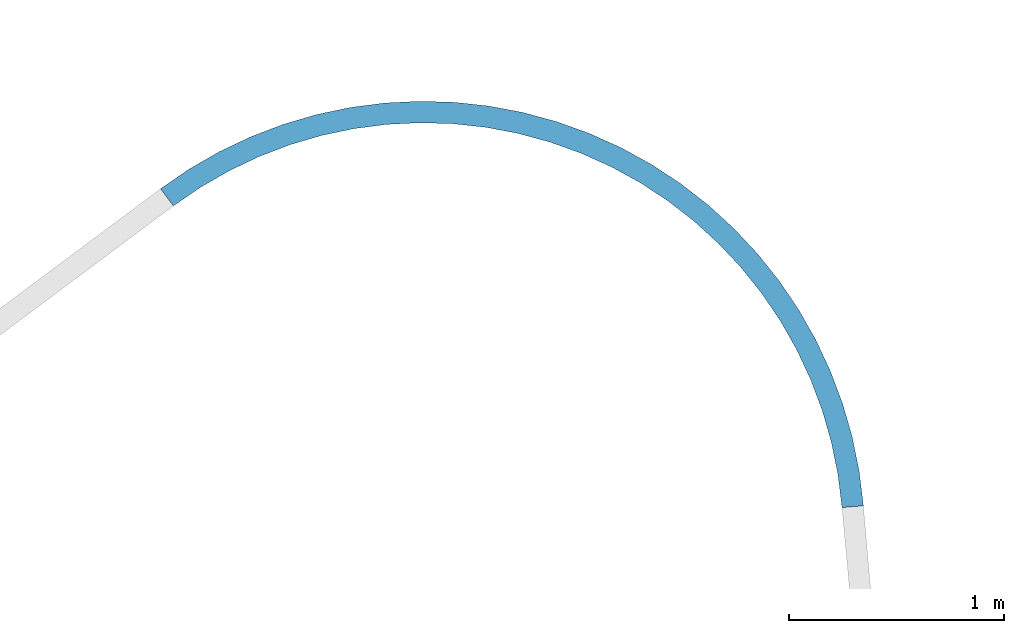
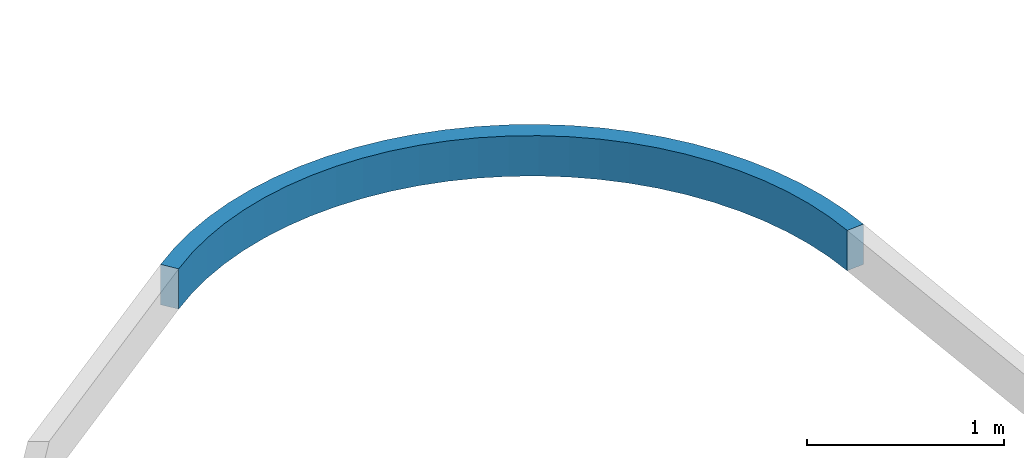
# One storey, part 18 of 24: 1 beam.
"""IFC2X3 building model written with IfcOpenShell, lengths in millimetres."""

from ifc_helpers import new_model, entity, si_unit, converted_unit, derived_unit, direction, frame, origin, place, context, subcontext, project, spatial, faceted_brep, material, type_object, element, save


model = new_model("IFC2X3")

# Units and contexts
model_context = context("Model", 3, precision=0.01, world=origin(), true_north=direction((6.123031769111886e-17, 1.0)))
body_context = subcontext(model_context, "Body", "Model", "MODEL_VIEW")
ifc_project = project(units=[si_unit("LENGTHUNIT", "METRE", prefix="MILLI"), si_unit("AREAUNIT", "SQUARE_METRE"), si_unit("VOLUMEUNIT", "CUBIC_METRE"), converted_unit("PLANEANGLEUNIT", "DEGREE", entity("IfcRatioMeasure", 0.017453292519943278), si_unit("PLANEANGLEUNIT", "RADIAN"), dimensions=[0, 0, 0, 0, 0, 0, 0]), si_unit("MASSUNIT", "GRAM", prefix="KILO"), derived_unit("MASSDENSITYUNIT", [(si_unit("MASSUNIT", "GRAM", prefix="KILO"), 1), (si_unit("LENGTHUNIT", "METRE"), -3)]), derived_unit("MOMENTOFINERTIAUNIT", [(si_unit("LENGTHUNIT", "METRE"), 4)]), si_unit("TIMEUNIT", "SECOND"), si_unit("FREQUENCYUNIT", "HERTZ"), si_unit("THERMODYNAMICTEMPERATUREUNIT", "DEGREE_CELSIUS"), derived_unit("THERMALTRANSMITTANCEUNIT", [(si_unit("MASSUNIT", "GRAM", prefix="KILO"), 1), (si_unit("THERMODYNAMICTEMPERATUREUNIT", "KELVIN"), -1), (si_unit("TIMEUNIT", "SECOND"), -3)]), derived_unit("THERMALCONDUCTANCEUNIT", [(si_unit("MASSUNIT", "GRAM", prefix="KILO"), 1), (si_unit("LENGTHUNIT", "METRE"), 1), (si_unit("THERMODYNAMICTEMPERATUREUNIT", "KELVIN"), -1), (si_unit("TIMEUNIT", "SECOND"), -3)]), derived_unit("VOLUMETRICFLOWRATEUNIT", [(si_unit("LENGTHUNIT", "METRE"), 3), (si_unit("TIMEUNIT", "SECOND"), -1)]), derived_unit("MASSFLOWRATEUNIT", [(si_unit("MASSUNIT", "GRAM", prefix="KILO"), 1), (si_unit("TIMEUNIT", "SECOND"), -1)]), derived_unit("ROTATIONALFREQUENCYUNIT", [(si_unit("TIMEUNIT", "SECOND"), -1)]), si_unit("ELECTRICCURRENTUNIT", "AMPERE"), si_unit("ELECTRICVOLTAGEUNIT", "VOLT"), si_unit("POWERUNIT", "WATT"), converted_unit("FORCEUNIT", "KIP", entity("IfcRatioMeasure", 2.088543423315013e-05), si_unit("FORCEUNIT", "NEWTON"), dimensions=[1, 1, -2, 0, 0, 0, 0]), si_unit("ILLUMINANCEUNIT", "LUX"), si_unit("LUMINOUSFLUXUNIT", "LUMEN"), si_unit("LUMINOUSINTENSITYUNIT", "CANDELA"), derived_unit("USERDEFINED", [(si_unit("MASSUNIT", "GRAM", prefix="KILO"), -1), (si_unit("LENGTHUNIT", "METRE"), -2), (si_unit("TIMEUNIT", "SECOND"), 3), (si_unit("LUMINOUSFLUXUNIT", "LUMEN"), 1)]), derived_unit("USERDEFINED", [(si_unit("MASSUNIT", "GRAM", prefix="KILO"), 1), (si_unit("LENGTHUNIT", "METRE"), 3), (si_unit("TIMEUNIT", "SECOND"), -3), (si_unit("ELECTRICCURRENTUNIT", "AMPERE"), -2)]), derived_unit("USERDEFINED", [(si_unit("LENGTHUNIT", "METRE"), 2), (si_unit("TIMEUNIT", "SECOND"), -2)]), derived_unit("SOUNDPOWERUNIT", [(si_unit("MASSUNIT", "GRAM", prefix="KILO"), 1), (si_unit("LENGTHUNIT", "METRE"), 2), (si_unit("TIMEUNIT", "SECOND"), -3)]), derived_unit("SOUNDPRESSUREUNIT", [(si_unit("MASSUNIT", "GRAM", prefix="KILO"), 1), (si_unit("LENGTHUNIT", "METRE"), -1), (si_unit("TIMEUNIT", "SECOND"), -2)]), derived_unit("LINEARVELOCITYUNIT", [(si_unit("LENGTHUNIT", "METRE"), 1), (si_unit("TIMEUNIT", "SECOND"), -1)]), si_unit("PRESSUREUNIT", "PASCAL"), derived_unit("USERDEFINED", [(si_unit("LENGTHUNIT", "METRE"), -2), (si_unit("MASSUNIT", "GRAM", prefix="KILO"), 1), (si_unit("TIMEUNIT", "SECOND"), -2)]), derived_unit("LINEARFORCEUNIT", [(si_unit("MASSUNIT", "GRAM", prefix="KILO"), 1), (si_unit("LENGTHUNIT", "METRE"), 1), (si_unit("TIMEUNIT", "SECOND"), -2), (si_unit("LENGTHUNIT", "METRE"), -1)]), derived_unit("PLANARFORCEUNIT", [(si_unit("MASSUNIT", "GRAM", prefix="KILO"), 1), (si_unit("LENGTHUNIT", "METRE"), 1), (si_unit("TIMEUNIT", "SECOND"), -2), (si_unit("LENGTHUNIT", "METRE"), -2)]), derived_unit("SPECIFICHEATCAPACITYUNIT", [(si_unit("LENGTHUNIT", "METRE"), 2), (si_unit("TIMEUNIT", "SECOND"), -2), (si_unit("THERMODYNAMICTEMPERATUREUNIT", "KELVIN"), -1)]), derived_unit("VAPORPERMEABILITYUNIT", [(si_unit("TIMEUNIT", "SECOND"), 1), (si_unit("LENGTHUNIT", "METRE"), -1)]), derived_unit("DYNAMICVISCOSITYUNIT", [(si_unit("MASSUNIT", "GRAM", prefix="KILO"), 1), (si_unit("LENGTHUNIT", "METRE"), -1), (si_unit("TIMEUNIT", "SECOND"), -1)]), derived_unit("THERMALEXPANSIONCOEFFICIENTUNIT", [(si_unit("THERMODYNAMICTEMPERATUREUNIT", "KELVIN"), -1)])], contexts=[model_context])

# Site, building, storey
site_placement = place(None, frame((0.0, 0.0, 0.0), z_axis=(0.0, 0.0, 1.0), x_axis=(0.8191520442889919, 0.5735764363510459, 0.0)))
site = spatial("IfcSite", under=ifc_project, at=site_placement, Name="Default", CompositionType="ELEMENT")
building_placement = place(site_placement, origin())
building = spatial("IfcBuilding", under=site, at=building_placement, CompositionType="ELEMENT")
storey_placement = place(building_placement, frame((0.0, 0.0, -1150.0)))
storey = spatial("IfcBuildingStorey", under=building, at=storey_placement, Name="6.EG KH -1.15", CompositionType="ELEMENT", Elevation=-1150.0000000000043)

# Beam
ifc_material = material(Name="Paveta_bordur")
beam_type = type_object("IfcBeamType", Name="Beam-141", PredefinedType="NOTDEFINED")
beam_placement = place(storey_placement, frame((-149017.48683213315, 78031.4994296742, 920.0)))
element("IfcBeam", 1, at=beam_placement, inside=storey, type_object=beam_type, material=ifc_material, Name="Beam-141 256654:Beam-141 256654", ObjectType="Beam-141 256654:Beam-141 256654", context=body_context, shape_type="Brep", body=[
    faceted_brep([(1746.785892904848, 52.02008533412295, 250.0), (1746.785892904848, 52.02008533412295, 0.0), (1833.1417741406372, 1.5952722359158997, 0.0), (1833.1417741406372, 1.5952722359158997, 250.0), (1.5952722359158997, 3084.3886932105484, 0.0), (4.5831228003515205, 2984.43333943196, 0.0), (4.5831228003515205, 2984.43333943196, 250.0), (1.5952722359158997, 3084.3886932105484, 250.0), (163.20677200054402, 3082.8458224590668, 0.0), (324.19448024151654, 3068.576446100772, 0.0), (483.5577771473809, 3041.669255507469, 0.0), (640.3061394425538, 3002.291492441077, 0.0), (793.4652969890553, 2950.687909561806, 0.0), (942.0832883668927, 2887.1792491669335, 0.0), (1085.236377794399, 2812.1602496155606, 0.0), (1222.034796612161, 2726.0971918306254, 0.0), (1351.6282736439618, 2629.5250011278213, 0.0), (1473.2113200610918, 2523.0439223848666, 0.0), (1586.0282359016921, 2407.3157892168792, 0.0), (1689.377807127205, 2283.0599103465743, 0.0), (1782.6176640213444, 2151.048598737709, 0.0), (1865.1682738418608, 2012.1023712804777, 0.0), (1936.5165429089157, 1867.0848488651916, 0.0), (1996.2190057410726, 1716.8973885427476, 0.0), (2043.904581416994, 1562.4734811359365, 0.0), (2079.2768800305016, 1404.7729491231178, 0.0), (2102.1160449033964, 1244.7759808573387, 0.0), (2112.2801191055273, 1083.477038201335, 0.0), (2109.7059277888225, 921.8786754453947, 0.0), (2094.4094708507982, 760.9853079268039, 0.0), (2066.485823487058, 601.7969690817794, 0.0), (2026.1085452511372, 445.30309473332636, 0.0), (1973.5286012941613, 292.4763732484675, 0.0), (1909.072802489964, 144.26669978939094, 0.0), (1819.0129686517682, 187.7319310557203, 0.0), (1880.3245821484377, 328.7118643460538, 0.0), (1930.3396507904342, 474.08362380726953, 0.0), (1968.7473056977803, 622.9436506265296, 0.0), (1995.3088239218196, 774.3667046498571, 0.0), (2009.8591122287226, 927.4116152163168, 0.0), (2012.307733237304, 1081.1271310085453, 0.0), (2002.63946753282, 1234.5578325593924, 0.0), (1980.9144082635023, 1386.7500706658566, 0.0), (1947.267587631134, 1536.7578938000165, 0.0), (1901.908137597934, 1683.648927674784, 0.0), (1845.1179900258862, 1826.5101704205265, 0.0), (1777.250124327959, 1964.453667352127, 0.0), (1698.726373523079, 2096.622030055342, 0.0), (1610.0348023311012, 2222.193765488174, 0.0), (1511.7266736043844, 2340.388381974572, 0.0), (1404.4130219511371, 2450.4712403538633, 0.0), (1288.7608558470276, 2551.758120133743, 0.0), (1165.4890118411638, 2643.619472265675, 0.0), (1035.363686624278, 2725.484332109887, 0.0), (899.1936747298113, 2796.843868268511, 0.0), (757.8253414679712, 2857.254545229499, 0.0), (612.1373623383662, 2906.3408801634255, 0.0), (463.0352616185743, 2943.7977767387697, 0.0), (311.4457840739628, 2969.392421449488, 0.0), (158.31113477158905, 2982.9657306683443, 0.0), (1909.072802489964, 144.26669978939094, 250.0), (1973.5286012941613, 292.4763732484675, 250.0), (2066.485823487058, 601.7969690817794, 250.0), (2026.1085452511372, 445.30309473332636, 250.0), (2109.7059277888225, 921.8786754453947, 250.0), (2094.4094708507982, 760.9853079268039, 250.0), (2043.904581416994, 1562.4734811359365, 250.0), (1996.2190057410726, 1716.8973885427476, 250.0), (1936.5165429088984, 1867.0848488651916, 250.0), (2112.2801191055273, 1083.477038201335, 250.0), (2102.1160449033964, 1244.7759808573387, 250.0), (2079.2768800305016, 1404.7729491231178, 250.0), (1865.1682738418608, 2012.1023712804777, 250.0), (1782.6176640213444, 2151.048598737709, 250.0), (1351.6282736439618, 2629.5250011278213, 250.0), (1473.2113200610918, 2523.0439223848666, 250.0), (1222.034796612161, 2726.0971918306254, 250.0), (1689.377807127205, 2283.0599103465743, 250.0), (1586.0282359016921, 2407.3157892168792, 250.0), (1085.236377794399, 2812.1602496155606, 250.0), (483.5577771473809, 3041.669255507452, 250.0), (324.19448024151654, 3068.576446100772, 250.0), (163.20677200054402, 3082.8458224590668, 250.0), (942.0832883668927, 2887.1792491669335, 250.0), (793.4652969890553, 2950.687909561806, 250.0), (640.3061394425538, 3002.291492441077, 250.0), (158.31113477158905, 2982.9657306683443, 250.0), (311.4457840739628, 2969.392421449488, 250.0), (463.0352616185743, 2943.7977767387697, 250.0), (612.1373623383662, 2906.3408801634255, 250.0), (757.8253414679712, 2857.254545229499, 250.0), (899.1936747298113, 2796.843868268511, 250.0), (1035.363686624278, 2725.484332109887, 250.0), (1165.4890118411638, 2643.619472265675, 250.0), (1288.7608558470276, 2551.758120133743, 250.0), (1404.4130219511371, 2450.4712403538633, 250.0), (1511.7266736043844, 2340.388381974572, 250.0), (1610.0348023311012, 2222.193765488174, 250.0), (1698.726373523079, 2096.622030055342, 250.0), (1777.250124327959, 1964.453667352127, 250.0), (1845.1179900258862, 1826.5101704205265, 250.0), (1901.908137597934, 1683.648927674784, 250.0), (1947.267587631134, 1536.7578938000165, 250.0), (1980.9144082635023, 1386.7500706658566, 250.0), (2002.63946753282, 1234.5578325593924, 250.0), (2012.307733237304, 1081.1271310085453, 250.0), (2009.8591122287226, 927.4116152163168, 250.0), (1995.3088239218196, 774.3667046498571, 250.0), (1968.7473056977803, 622.9436506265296, 250.0), (1930.3396507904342, 474.08362380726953, 250.0), (1880.3245821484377, 328.7118643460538, 250.0), (1819.0129686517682, 187.7319310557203, 250.0)], [[[0, 1, 2, 3]], [[4, 5, 6, 7]], [[5, 4, 8, 9, 10, 11, 12, 13, 14, 15, 16, 17, 18, 19, 20, 21, 22, 23, 24, 25, 26, 27, 28, 29, 30, 31, 32, 33, 2, 1, 34, 35, 36, 37, 38, 39, 40, 41, 42, 43, 44, 45, 46, 47, 48, 49, 50, 51, 52, 53, 54, 55, 56, 57, 58, 59]], [[33, 60, 3, 2]], [[32, 61, 60, 33]], [[62, 63, 31, 30]], [[64, 65, 29, 28]], [[32, 31, 63, 61]], [[62, 30, 29, 65]], [[66, 24, 23, 67]], [[67, 23, 22, 68]], [[69, 27, 26, 70]], [[26, 25, 71, 70]], [[24, 66, 71, 25]], [[28, 27, 69, 64]], [[68, 22, 21, 72]], [[21, 20, 73, 72]], [[16, 74, 75, 17]], [[15, 76, 74, 16]], [[73, 20, 19, 77]], [[77, 19, 18, 78]], [[17, 75, 78, 18]], [[76, 15, 14, 79]], [[80, 10, 9, 81]], [[81, 9, 8, 82]], [[83, 13, 12, 84]], [[12, 11, 85, 84]], [[85, 11, 10, 80]], [[79, 14, 13, 83]], [[82, 8, 4, 7]], [[82, 7, 6, 86, 87, 88, 89, 90, 91, 92, 93, 94, 95, 96, 97, 98, 99, 100, 101, 102, 103, 104, 105, 106, 107, 108, 109, 110, 111, 0, 3, 60, 61, 63, 62, 65, 64, 69, 70, 71, 66, 67, 68, 72, 73, 77, 78, 75, 74, 76, 79, 83, 84, 85, 80, 81]], [[1, 0, 111, 34]], [[34, 111, 110, 35]], [[37, 36, 109, 108]], [[39, 38, 107, 106]], [[109, 36, 35, 110]], [[38, 37, 108, 107]], [[44, 43, 102, 101]], [[45, 44, 101, 100]], [[41, 40, 105, 104]], [[104, 103, 42, 41]], [[43, 42, 103, 102]], [[106, 105, 40, 39]], [[45, 100, 99, 46]], [[99, 98, 47, 46]], [[50, 95, 94, 51]], [[51, 94, 93, 52]], [[48, 47, 98, 97]], [[49, 48, 97, 96]], [[49, 96, 95, 50]], [[53, 52, 93, 92]], [[58, 57, 88, 87]], [[59, 58, 87, 86]], [[55, 54, 91, 90]], [[90, 89, 56, 55]], [[57, 56, 89, 88]], [[54, 53, 92, 91]], [[5, 59, 86, 6]]]),
])

save(model, "model.ifc")
